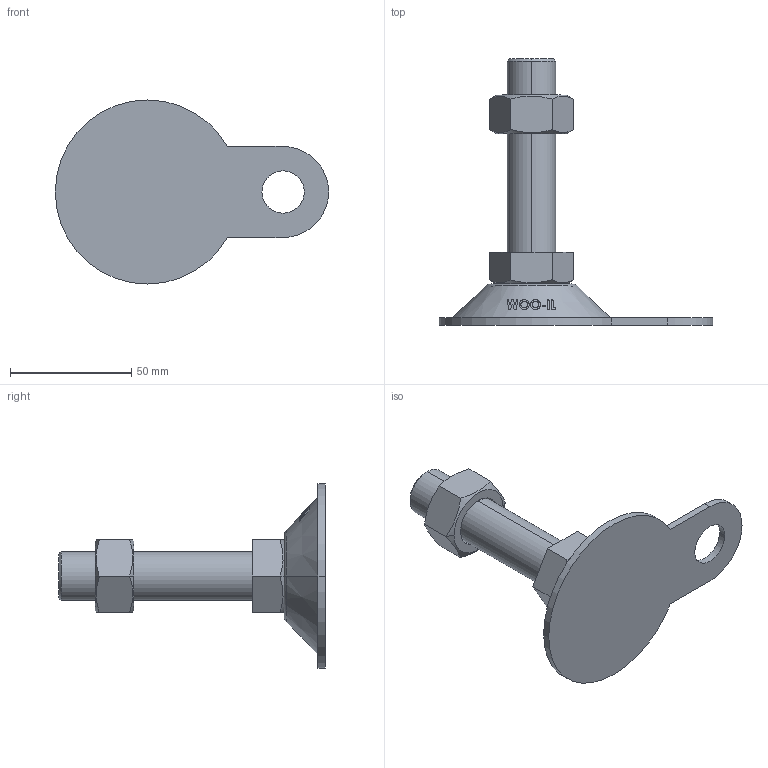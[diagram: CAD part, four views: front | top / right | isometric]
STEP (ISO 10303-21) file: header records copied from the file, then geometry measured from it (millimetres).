
FILE_DESCRIPTION (( 'STEP AP214' ), '1' );
FILE_NAME ('ABL76-M20-80.step', '2021-02-05T04:21:17', ( '' ), ( '' ), 'SwSTEP 2.0', 'SolidWorks 2019', '' );
FILE_SCHEMA (( 'AUTOMOTIVE_DESIGN' ));
Length unit declared in the file: millimetre
Products named in the file (2): ABL76-M20-80
Bounding box: 112.8 x 110 x 76 mm (x, y, z)
Volume: 88010.9 mm3; surface area: 23200.7 mm2
Topology: 2 solids, 2 shells, 128 faces, 325 edges, 212 vertices
Faces by surface type: plane 48, cylinder 38, cone 22, bspline 18, torus 2
Entity records: 5487 total; most frequent: CARTESIAN_POINT 2601, ORIENTED_EDGE 650, DIRECTION 473, EDGE_CURVE 325, VERTEX_POINT 212, AXIS2_PLACEMENT_3D 176, EDGE_LOOP 143, B_SPLINE_CURVE_WITH_KNOTS 140
